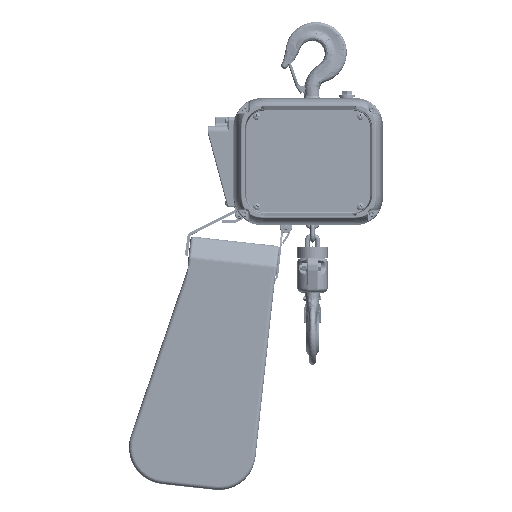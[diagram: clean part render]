
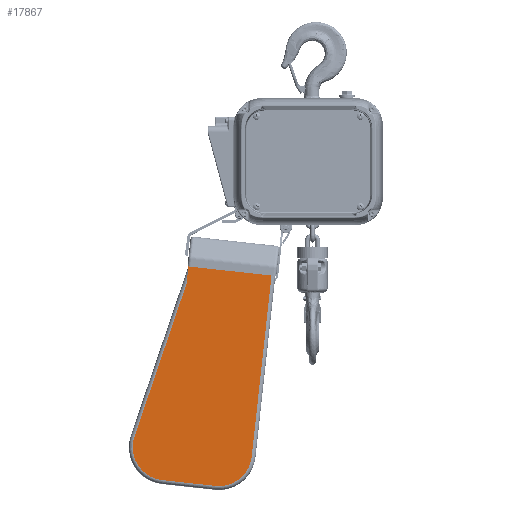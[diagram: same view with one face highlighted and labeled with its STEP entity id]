
A CAD part, top view. The second image highlights one B-rep face of the part: STEP entity #17867.
In plain terms, the highlighted planar face has unit normal (0, 0, 1) as drawn and (-1, 0, 0) by its records, which use the part's own axes.
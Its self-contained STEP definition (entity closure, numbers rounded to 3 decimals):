
#480 = DIRECTION ( 'NONE',  ( 0., 0., -1. ) ) ;
#3206 = CARTESIAN_POINT ( 'NONE',  ( 1.642, -29.227, -146.558 ) ) ;
#12810 = EDGE_CURVE ( 'NONE', #192808, #132416, #93304, .T. ) ;
#13255 = LINE ( 'NONE', #90939, #169071 ) ;
#13836 = CARTESIAN_POINT ( 'NONE',  ( 1.642, -356.87, -62.484 ) ) ;
#16825 = DIRECTION ( 'NONE',  ( 0., 0., -1. ) ) ;
#17867 = ADVANCED_FACE ( 'NONE', ( #170190 ), #29139, .F. ) ;
#18131 = VERTEX_POINT ( 'NONE', #3206 ) ;
#18349 = CARTESIAN_POINT ( 'NONE',  ( 1.642, -302.26, -62.484 ) ) ;
#25291 = CIRCLE ( 'NONE', #28623, 54.61 ) ;
#27553 = ORIENTED_EDGE ( 'NONE', *, *, #192677, .T. ) ;
#28623 = AXIS2_PLACEMENT_3D ( 'NONE', #49256, #64561, #189271 ) ;
#29139 = PLANE ( 'NONE',  #192207 ) ;
#31156 = CARTESIAN_POINT ( 'NONE',  ( 1.642, -290.395, -204.69 ) ) ;
#32046 = LINE ( 'NONE', #125168, #116277 ) ;
#38156 = DIRECTION ( 'NONE',  ( 0., 0., -1. ) ) ;
#46824 = EDGE_CURVE ( 'NONE', #188051, #49603, #201480, .T. ) ;
#49039 = ORIENTED_EDGE ( 'NONE', *, *, #46824, .T. ) ;
#49256 = CARTESIAN_POINT ( 'NONE',  ( 1.642, -302.26, -151.384 ) ) ;
#49592 = VECTOR ( 'NONE', #149250, 1000. ) ;
#49603 = VERTEX_POINT ( 'NONE', #109054 ) ;
#57075 = EDGE_LOOP ( 'NONE', ( #78949, #82313, #57668, #136169, #64807, #27553, #49039, #109645 ) ) ;
#57668 = ORIENTED_EDGE ( 'NONE', *, *, #85491, .T. ) ;
#58450 = DIRECTION ( 'NONE',  ( 0., 1., 0. ) ) ;
#59479 = CARTESIAN_POINT ( 'NONE',  ( 1.642, -302.26, -7.874 ) ) ;
#60244 = DIRECTION ( 'NONE',  ( 0., 0., 1. ) ) ;
#61846 = DIRECTION ( 'NONE',  ( 1., 0., 0. ) ) ;
#64255 = EDGE_CURVE ( 'NONE', #49603, #190708, #32046, .T. ) ;
#64561 = DIRECTION ( 'NONE',  ( -1., 0., 0. ) ) ;
#64807 = ORIENTED_EDGE ( 'NONE', *, *, #138849, .T. ) ;
#65750 = CARTESIAN_POINT ( 'NONE',  ( 1.642, -356.87, -151.384 ) ) ;
#70990 = VERTEX_POINT ( 'NONE', #192946 ) ;
#73991 = EDGE_CURVE ( 'NONE', #18131, #70990, #106881, .T. ) ;
#78949 = ORIENTED_EDGE ( 'NONE', *, *, #130320, .T. ) ;
#80360 = AXIS2_PLACEMENT_3D ( 'NONE', #189505, #160848, #38156 ) ;
#82313 = ORIENTED_EDGE ( 'NONE', *, *, #73991, .T. ) ;
#83925 = CARTESIAN_POINT ( 'NONE',  ( 1.642, -302.26, -7.874 ) ) ;
#85491 = EDGE_CURVE ( 'NONE', #70990, #192808, #25291, .T. ) ;
#88090 = CIRCLE ( 'NONE', #97842, 54.61 ) ;
#90939 = CARTESIAN_POINT ( 'NONE',  ( 1.642, -356.87, -151.384 ) ) ;
#91548 = CARTESIAN_POINT ( 'NONE',  ( 1.642, -302.26, -151.384 ) ) ;
#93304 = CIRCLE ( 'NONE', #80360, 54.61 ) ;
#97842 = AXIS2_PLACEMENT_3D ( 'NONE', #18349, #124771, #187050 ) ;
#105368 = VECTOR ( 'NONE', #183591, 1000. ) ;
#106881 = LINE ( 'NONE', #31156, #105368 ) ;
#109054 = CARTESIAN_POINT ( 'NONE',  ( 1.642, 12.7, -7.874 ) ) ;
#109645 = ORIENTED_EDGE ( 'NONE', *, *, #64255, .T. ) ;
#116277 = VECTOR ( 'NONE', #480, 1000. ) ;
#116590 = LINE ( 'NONE', #130928, #49592 ) ;
#124771 = DIRECTION ( 'NONE',  ( -1., 0., 0. ) ) ;
#125168 = CARTESIAN_POINT ( 'NONE',  ( 1.642, 12.7, -1.524 ) ) ;
#128303 = CARTESIAN_POINT ( 'NONE',  ( 1.642, 12.7, -146.558 ) ) ;
#130320 = EDGE_CURVE ( 'NONE', #190708, #18131, #116590, .T. ) ;
#130928 = CARTESIAN_POINT ( 'NONE',  ( 1.642, 12.7, -146.558 ) ) ;
#132416 = VERTEX_POINT ( 'NONE', #65750 ) ;
#136169 = ORIENTED_EDGE ( 'NONE', *, *, #12810, .T. ) ;
#138849 = EDGE_CURVE ( 'NONE', #132416, #165564, #13255, .T. ) ;
#147117 = CARTESIAN_POINT ( 'NONE',  ( 1.642, -302.26, -205.994 ) ) ;
#149250 = DIRECTION ( 'NONE',  ( 0., -1., 0. ) ) ;
#160848 = DIRECTION ( 'NONE',  ( -1., 0., 0. ) ) ;
#165564 = VERTEX_POINT ( 'NONE', #13836 ) ;
#169071 = VECTOR ( 'NONE', #60244, 1000. ) ;
#170190 = FACE_OUTER_BOUND ( 'NONE', #57075, .T. ) ;
#183591 = DIRECTION ( 'NONE',  ( 0., -0.976, -0.217 ) ) ;
#187050 = DIRECTION ( 'NONE',  ( 0., 0., -1. ) ) ;
#188051 = VERTEX_POINT ( 'NONE', #83925 ) ;
#189271 = DIRECTION ( 'NONE',  ( 0., 0., -1. ) ) ;
#189505 = CARTESIAN_POINT ( 'NONE',  ( 1.642, -302.26, -151.384 ) ) ;
#190708 = VERTEX_POINT ( 'NONE', #128303 ) ;
#192207 = AXIS2_PLACEMENT_3D ( 'NONE', #91548, #61846, #16825 ) ;
#192677 = EDGE_CURVE ( 'NONE', #165564, #188051, #88090, .T. ) ;
#192808 = VERTEX_POINT ( 'NONE', #147117 ) ;
#192946 = CARTESIAN_POINT ( 'NONE',  ( 1.642, -290.395, -204.69 ) ) ;
#193304 = VECTOR ( 'NONE', #58450, 1000. ) ;
#201480 = LINE ( 'NONE', #59479, #193304 ) ;
